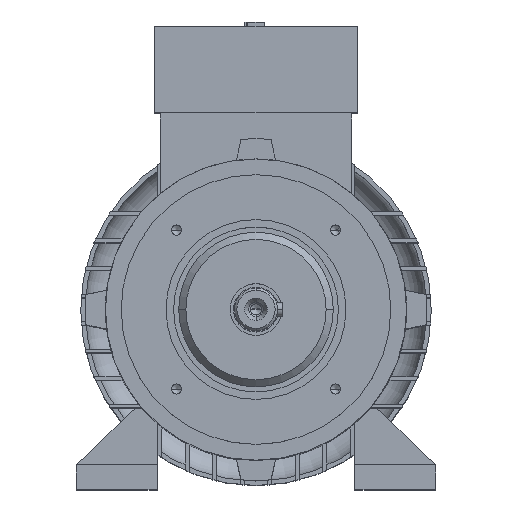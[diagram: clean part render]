
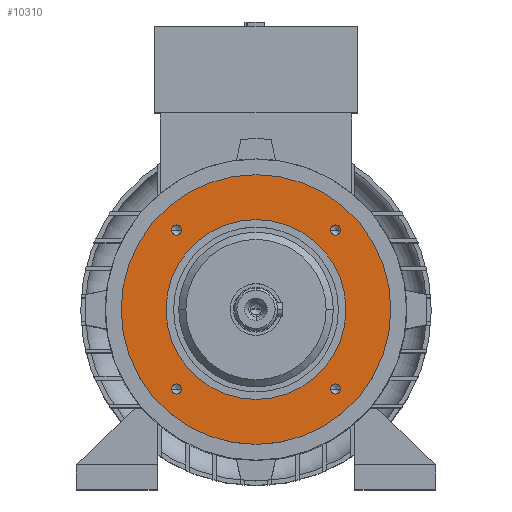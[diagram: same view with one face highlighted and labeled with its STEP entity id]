
A CAD part, top view. The second image highlights one B-rep face of the part: STEP entity #10310.
In plain terms, the highlighted planar face has unit normal (0, 0, 1).
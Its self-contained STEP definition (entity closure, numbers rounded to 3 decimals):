
#163 = CIRCLE ( 'NONE', #10276, 2.25 ) ;
#173 = DIRECTION ( 'NONE',  ( -1., 0., 0. ) ) ;
#244 = EDGE_LOOP ( 'NONE', ( #9099, #3335 ) ) ;
#301 = EDGE_LOOP ( 'NONE', ( #3701, #8046 ) ) ;
#347 = AXIS2_PLACEMENT_3D ( 'NONE', #9147, #13007, #14236 ) ;
#865 = ORIENTED_EDGE ( 'NONE', *, *, #4911, .T. ) ;
#1039 = DIRECTION ( 'NONE',  ( 0., 0., -1. ) ) ;
#1172 = FACE_BOUND ( 'NONE', #2172, .T. ) ;
#1196 = VERTEX_POINT ( 'NONE', #9973 ) ;
#1280 = DIRECTION ( 'NONE',  ( 0., 0., -1. ) ) ;
#1290 = DIRECTION ( 'NONE',  ( 1., 0., 0. ) ) ;
#1438 = VERTEX_POINT ( 'NONE', #5892 ) ;
#1482 = AXIS2_PLACEMENT_3D ( 'NONE', #10223, #10069, #6325 ) ;
#1652 = CIRCLE ( 'NONE', #4471, 2.25 ) ;
#1676 = CARTESIAN_POINT ( 'NONE',  ( 35.355, 35.355, 100. ) ) ;
#1732 = CARTESIAN_POINT ( 'NONE',  ( -33.105, 35.355, 100. ) ) ;
#1813 = VERTEX_POINT ( 'NONE', #13226 ) ;
#1818 = AXIS2_PLACEMENT_3D ( 'NONE', #2571, #3894, #173 ) ;
#2172 = EDGE_LOOP ( 'NONE', ( #11342, #5457 ) ) ;
#2225 = VERTEX_POINT ( 'NONE', #4896 ) ;
#2571 = CARTESIAN_POINT ( 'NONE',  ( 0., 0., 100. ) ) ;
#2735 = DIRECTION ( 'NONE',  ( 1., 0., 0. ) ) ;
#2742 = AXIS2_PLACEMENT_3D ( 'NONE', #12843, #15092, #2735 ) ;
#3184 = VERTEX_POINT ( 'NONE', #9001 ) ;
#3329 = DIRECTION ( 'NONE',  ( 0., 0., -1. ) ) ;
#3335 = ORIENTED_EDGE ( 'NONE', *, *, #10962, .T. ) ;
#3580 = CARTESIAN_POINT ( 'NONE',  ( -60., 0., 100. ) ) ;
#3656 = ORIENTED_EDGE ( 'NONE', *, *, #11334, .T. ) ;
#3701 = ORIENTED_EDGE ( 'NONE', *, *, #9512, .F. ) ;
#3756 = CIRCLE ( 'NONE', #347, 2.25 ) ;
#3812 = CARTESIAN_POINT ( 'NONE',  ( -35.355, 35.355, 100. ) ) ;
#3894 = DIRECTION ( 'NONE',  ( 0., 0., -1. ) ) ;
#4471 = AXIS2_PLACEMENT_3D ( 'NONE', #3812, #15108, #1290 ) ;
#4487 = EDGE_LOOP ( 'NONE', ( #8647, #865 ) ) ;
#4537 = CARTESIAN_POINT ( 'NONE',  ( -37.605, 35.355, 100. ) ) ;
#4574 = CARTESIAN_POINT ( 'NONE',  ( 40., 0., 100. ) ) ;
#4646 = DIRECTION ( 'NONE',  ( -1., 0., 0. ) ) ;
#4647 = CARTESIAN_POINT ( 'NONE',  ( -35.355, -35.355, 100. ) ) ;
#4896 = CARTESIAN_POINT ( 'NONE',  ( -40., 0., 100. ) ) ;
#4911 = EDGE_CURVE ( 'NONE', #9827, #4912, #16009, .T. ) ;
#4912 = VERTEX_POINT ( 'NONE', #15401 ) ;
#5316 = DIRECTION ( 'NONE',  ( 1., 0., 0. ) ) ;
#5457 = ORIENTED_EDGE ( 'NONE', *, *, #12735, .T. ) ;
#5577 = CARTESIAN_POINT ( 'NONE',  ( 0., 0., 100. ) ) ;
#5892 = CARTESIAN_POINT ( 'NONE',  ( -33.105, -35.355, 100. ) ) ;
#6122 = EDGE_CURVE ( 'NONE', #4912, #9827, #163, .T. ) ;
#6236 = FACE_BOUND ( 'NONE', #4487, .T. ) ;
#6325 = DIRECTION ( 'NONE',  ( 1., 0., 0. ) ) ;
#6334 = CARTESIAN_POINT ( 'NONE',  ( 35.355, 35.355, 100. ) ) ;
#6378 = VERTEX_POINT ( 'NONE', #4574 ) ;
#6625 = FACE_BOUND ( 'NONE', #14935, .T. ) ;
#6748 = CIRCLE ( 'NONE', #11080, 40. ) ;
#6915 = VERTEX_POINT ( 'NONE', #15843 ) ;
#7241 = ORIENTED_EDGE ( 'NONE', *, *, #11288, .T. ) ;
#7254 = CARTESIAN_POINT ( 'NONE',  ( 33.105, 35.355, 100. ) ) ;
#7353 = DIRECTION ( 'NONE',  ( 1., 0., 0. ) ) ;
#7502 = CARTESIAN_POINT ( 'NONE',  ( -35.355, 35.355, 100. ) ) ;
#7831 = ORIENTED_EDGE ( 'NONE', *, *, #8152, .T. ) ;
#7992 = EDGE_CURVE ( 'NONE', #2225, #6378, #15351, .T. ) ;
#8009 = VERTEX_POINT ( 'NONE', #1732 ) ;
#8022 = DIRECTION ( 'NONE',  ( -1., 0., 0. ) ) ;
#8046 = ORIENTED_EDGE ( 'NONE', *, *, #15561, .F. ) ;
#8152 = EDGE_CURVE ( 'NONE', #1438, #1196, #11863, .T. ) ;
#8461 = DIRECTION ( 'NONE',  ( -1., 0., 0. ) ) ;
#8619 = EDGE_LOOP ( 'NONE', ( #7831, #3656 ) ) ;
#8647 = ORIENTED_EDGE ( 'NONE', *, *, #6122, .T. ) ;
#8929 = CARTESIAN_POINT ( 'NONE',  ( 35.355, -35.355, 100. ) ) ;
#8990 = FACE_BOUND ( 'NONE', #8619, .T. ) ;
#9001 = CARTESIAN_POINT ( 'NONE',  ( 60., 0., 100. ) ) ;
#9099 = ORIENTED_EDGE ( 'NONE', *, *, #9129, .T. ) ;
#9129 = EDGE_CURVE ( 'NONE', #6915, #1813, #3756, .T. ) ;
#9147 = CARTESIAN_POINT ( 'NONE',  ( 35.355, -35.355, 100. ) ) ;
#9355 = DIRECTION ( 'NONE',  ( 0., 0., -1. ) ) ;
#9375 = CIRCLE ( 'NONE', #15592, 60. ) ;
#9512 = EDGE_CURVE ( 'NONE', #11198, #3184, #10786, .T. ) ;
#9571 = CIRCLE ( 'NONE', #12881, 2.25 ) ;
#9827 = VERTEX_POINT ( 'NONE', #7254 ) ;
#9964 = DIRECTION ( 'NONE',  ( 1., 0., 0. ) ) ;
#9973 = CARTESIAN_POINT ( 'NONE',  ( -37.605, -35.355, 100. ) ) ;
#10069 = DIRECTION ( 'NONE',  ( 0., 0., 1. ) ) ;
#10154 = CIRCLE ( 'NONE', #12284, 2.25 ) ;
#10223 = CARTESIAN_POINT ( 'NONE',  ( 0., 60., 100. ) ) ;
#10276 = AXIS2_PLACEMENT_3D ( 'NONE', #1676, #11730, #10434 ) ;
#10310 = ADVANCED_FACE ( 'NONE', ( #10370, #1172, #16013, #6236, #6625, #8990 ), #15130, .T. ) ;
#10313 = DIRECTION ( 'NONE',  ( 0., 0., -1. ) ) ;
#10370 = FACE_OUTER_BOUND ( 'NONE', #301, .T. ) ;
#10434 = DIRECTION ( 'NONE',  ( 1., 0., 0. ) ) ;
#10786 = CIRCLE ( 'NONE', #1818, 60. ) ;
#10962 = EDGE_CURVE ( 'NONE', #1813, #6915, #9571, .T. ) ;
#11080 = AXIS2_PLACEMENT_3D ( 'NONE', #15782, #14691, #4646 ) ;
#11156 = ORIENTED_EDGE ( 'NONE', *, *, #13599, .T. ) ;
#11198 = VERTEX_POINT ( 'NONE', #3580 ) ;
#11288 = EDGE_CURVE ( 'NONE', #12740, #8009, #10154, .T. ) ;
#11334 = EDGE_CURVE ( 'NONE', #1196, #1438, #14244, .T. ) ;
#11342 = ORIENTED_EDGE ( 'NONE', *, *, #7992, .T. ) ;
#11345 = AXIS2_PLACEMENT_3D ( 'NONE', #4647, #3329, #14540 ) ;
#11730 = DIRECTION ( 'NONE',  ( 0., 0., -1. ) ) ;
#11863 = CIRCLE ( 'NONE', #11345, 2.25 ) ;
#12284 = AXIS2_PLACEMENT_3D ( 'NONE', #7502, #1280, #9964 ) ;
#12735 = EDGE_CURVE ( 'NONE', #6378, #2225, #6748, .T. ) ;
#12740 = VERTEX_POINT ( 'NONE', #4537 ) ;
#12829 = AXIS2_PLACEMENT_3D ( 'NONE', #6334, #1039, #7353 ) ;
#12843 = CARTESIAN_POINT ( 'NONE',  ( -35.355, -35.355, 100. ) ) ;
#12881 = AXIS2_PLACEMENT_3D ( 'NONE', #8929, #10313, #5316 ) ;
#13007 = DIRECTION ( 'NONE',  ( 0., 0., -1. ) ) ;
#13226 = CARTESIAN_POINT ( 'NONE',  ( 33.105, -35.355, 100. ) ) ;
#13599 = EDGE_CURVE ( 'NONE', #8009, #12740, #1652, .T. ) ;
#14236 = DIRECTION ( 'NONE',  ( 1., 0., 0. ) ) ;
#14244 = CIRCLE ( 'NONE', #2742, 2.25 ) ;
#14540 = DIRECTION ( 'NONE',  ( 1., 0., 0. ) ) ;
#14691 = DIRECTION ( 'NONE',  ( 0., 0., -1. ) ) ;
#14758 = DIRECTION ( 'NONE',  ( 0., 0., -1. ) ) ;
#14810 = CARTESIAN_POINT ( 'NONE',  ( 0., 0., 100. ) ) ;
#14895 = AXIS2_PLACEMENT_3D ( 'NONE', #5577, #9355, #8022 ) ;
#14935 = EDGE_LOOP ( 'NONE', ( #11156, #7241 ) ) ;
#15092 = DIRECTION ( 'NONE',  ( 0., 0., -1. ) ) ;
#15108 = DIRECTION ( 'NONE',  ( 0., 0., -1. ) ) ;
#15130 = PLANE ( 'NONE',  #1482 ) ;
#15351 = CIRCLE ( 'NONE', #14895, 40. ) ;
#15401 = CARTESIAN_POINT ( 'NONE',  ( 37.605, 35.355, 100. ) ) ;
#15561 = EDGE_CURVE ( 'NONE', #3184, #11198, #9375, .T. ) ;
#15592 = AXIS2_PLACEMENT_3D ( 'NONE', #14810, #14758, #8461 ) ;
#15782 = CARTESIAN_POINT ( 'NONE',  ( 0., 0., 100. ) ) ;
#15843 = CARTESIAN_POINT ( 'NONE',  ( 37.605, -35.355, 100. ) ) ;
#16009 = CIRCLE ( 'NONE', #12829, 2.25 ) ;
#16013 = FACE_BOUND ( 'NONE', #244, .T. ) ;
